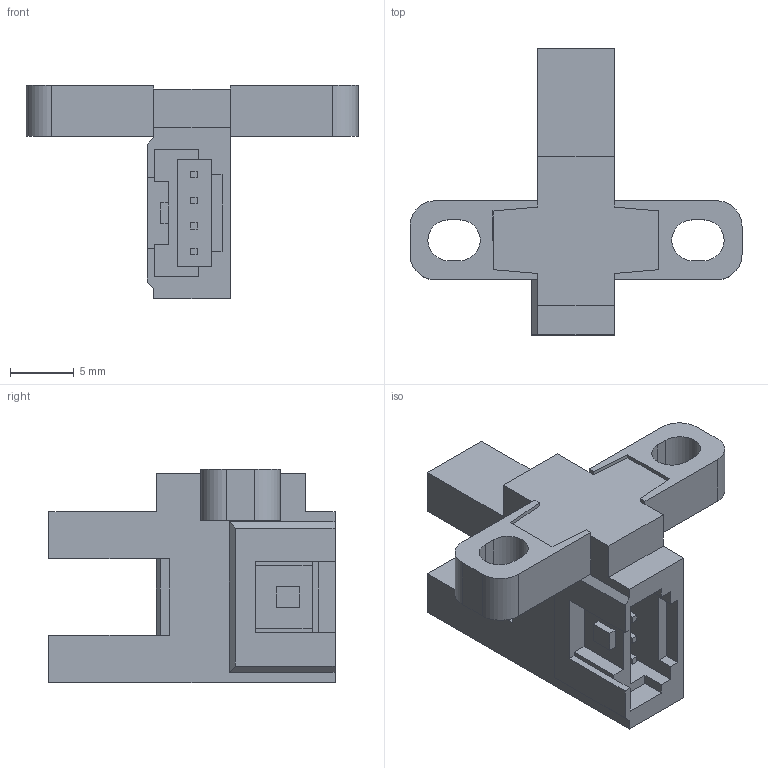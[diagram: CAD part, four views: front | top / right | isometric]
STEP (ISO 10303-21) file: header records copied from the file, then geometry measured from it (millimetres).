
FILE_DESCRIPTION (( 'STEP AP203' ), '1' );
FILE_NAME ('pm-t65w.STEP', '2015-08-07T08:19:18', ( '' ), ( '' ), 'SwSTEP 2.0', 'SolidWorks 2010', '' );
FILE_SCHEMA (( 'CONFIG_CONTROL_DESIGN' ));
Length unit declared in the file: millimetre
Products named in the file (1): pm-t65w
Bounding box: 26 x 22.4 x 16.7 mm (x, y, z)
Volume: 1919.6 mm3; surface area: 1767.8 mm2
Topology: 1 solids, 1 shells, 133 faces, 360 edges, 238 vertices
Faces by surface type: plane 123, cylinder 10
Entity records: 4191 total; most frequent: CARTESIAN_POINT 732, ORIENTED_EDGE 720, DIRECTION 648, EDGE_CURVE 360, LINE 340, VECTOR 340, VERTEX_POINT 238, AXIS2_PLACEMENT_3D 154
